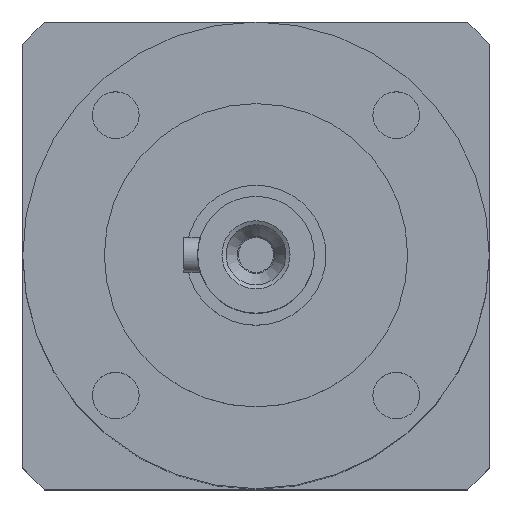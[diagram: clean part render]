
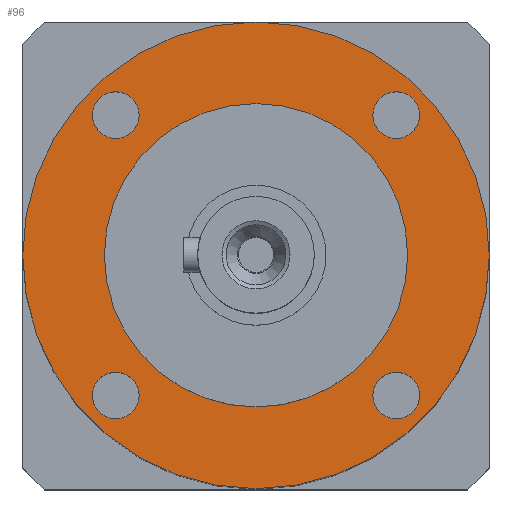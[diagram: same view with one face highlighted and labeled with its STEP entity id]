
A CAD part, top view. The second image highlights one B-rep face of the part: STEP entity #96.
In plain terms, the highlighted planar face has unit normal (0, 0, 1).
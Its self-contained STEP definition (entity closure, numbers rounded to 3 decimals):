
#96=ADVANCED_FACE('',(#218,#219,#220,#221,#222,#223),#284,.F.);
#218=FACE_OUTER_BOUND('',#224,.T.);
#219=FACE_BOUND('',#225,.T.);
#220=FACE_BOUND('',#226,.T.);
#221=FACE_BOUND('',#227,.T.);
#222=FACE_BOUND('',#228,.T.);
#223=FACE_BOUND('',#229,.T.);
#224=EDGE_LOOP('',(#230));
#225=EDGE_LOOP('',(#239));
#226=EDGE_LOOP('',(#248));
#227=EDGE_LOOP('',(#257));
#228=EDGE_LOOP('',(#266));
#229=EDGE_LOOP('',(#275));
#230=ORIENTED_EDGE('',*,*,#231,.T.);
#231=EDGE_CURVE('',#237,#237,#232,.T.);
#232=CIRCLE('',#233,2.);
#233=AXIS2_PLACEMENT_3D('',#234,#235,#236);
#234=CARTESIAN_POINT('',(-12.021,-12.021,
   39.));
#235=DIRECTION('',(0.,0.,-1.));
#236=DIRECTION('',(-1.,0.,0.));
#237=VERTEX_POINT('',#238);
#238=CARTESIAN_POINT('',(-14.021,-12.021,
   39.));
#239=ORIENTED_EDGE('',*,*,#240,.T.);
#240=EDGE_CURVE('',#246,#246,#241,.T.);
#241=CIRCLE('',#242,2.);
#242=AXIS2_PLACEMENT_3D('',#243,#244,#245);
#243=CARTESIAN_POINT('',(12.021,12.021,
   39.));
#244=DIRECTION('',(0.,0.,-1.));
#245=DIRECTION('',(1.,0.,0.));
#246=VERTEX_POINT('',#247);
#247=CARTESIAN_POINT('',(14.021,12.021,
   39.));
#248=ORIENTED_EDGE('',*,*,#249,.T.);
#249=EDGE_CURVE('',#255,#255,#250,.T.);
#250=CIRCLE('',#251,13.);
#251=AXIS2_PLACEMENT_3D('',#252,#253,#254);
#252=CARTESIAN_POINT('',(0.,0.,39.));
#253=DIRECTION('',(0.,0.,-1.));
#254=DIRECTION('',(1.,0.,0.));
#255=VERTEX_POINT('',#256);
#256=CARTESIAN_POINT('',(13.,0.,39.));
#257=ORIENTED_EDGE('',*,*,#258,.F.);
#258=EDGE_CURVE('',#264,#264,#259,.T.);
#259=CIRCLE('',#260,20.);
#260=AXIS2_PLACEMENT_3D('',#261,#262,#263);
#261=CARTESIAN_POINT('',(0.,0.,39.));
#262=DIRECTION('',(0.,0.,-1.));
#263=DIRECTION('',(0.,1.,0.));
#264=VERTEX_POINT('',#265);
#265=CARTESIAN_POINT('',(0.,20.,39.));
#266=ORIENTED_EDGE('',*,*,#267,.T.);
#267=EDGE_CURVE('',#273,#273,#268,.T.);
#268=CIRCLE('',#269,2.);
#269=AXIS2_PLACEMENT_3D('',#270,#271,#272);
#270=CARTESIAN_POINT('',(12.021,-12.021,
   39.));
#271=DIRECTION('',(0.,0.,-1.));
#272=DIRECTION('',(0.,-1.,0.));
#273=VERTEX_POINT('',#274);
#274=CARTESIAN_POINT('',(12.021,-14.021,
   39.));
#275=ORIENTED_EDGE('',*,*,#276,.T.);
#276=EDGE_CURVE('',#282,#282,#277,.T.);
#277=CIRCLE('',#278,2.);
#278=AXIS2_PLACEMENT_3D('',#279,#280,#281);
#279=CARTESIAN_POINT('',(-12.021,12.021,
   39.));
#280=DIRECTION('',(0.,0.,-1.));
#281=DIRECTION('',(0.,1.,0.));
#282=VERTEX_POINT('',#283);
#283=CARTESIAN_POINT('',(-12.021,14.021,
   39.));
#284=PLANE('',#285);
#285=AXIS2_PLACEMENT_3D('',#286,#287,#288);
#286=CARTESIAN_POINT('',(0.,0.,39.));
#287=DIRECTION('',(0.,0.,-1.));
#288=DIRECTION('',(-1.,0.,0.));
